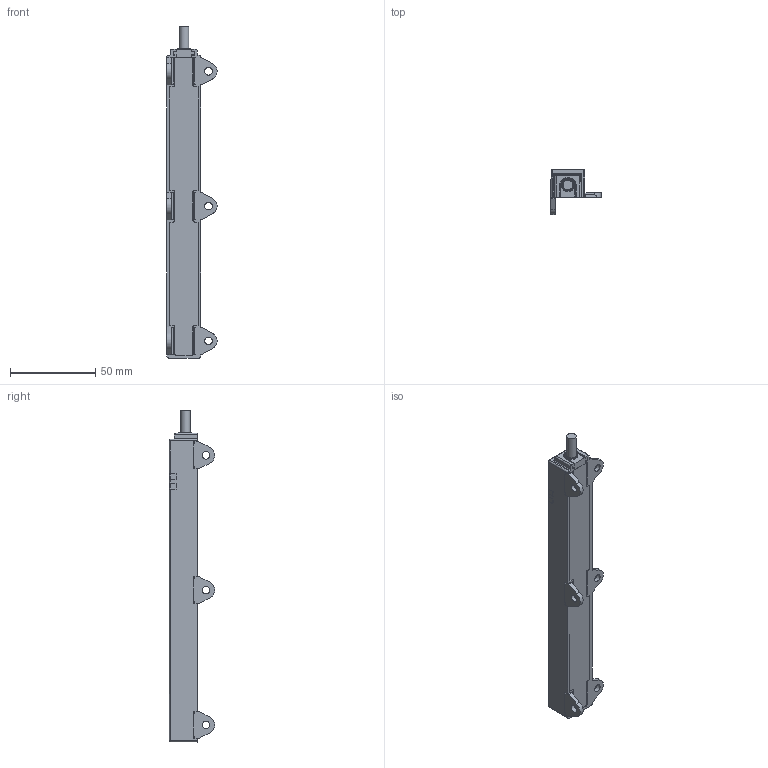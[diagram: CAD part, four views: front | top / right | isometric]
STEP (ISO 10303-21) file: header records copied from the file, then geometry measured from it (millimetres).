
FILE_DESCRIPTION((''),'2;1');
FILE_NAME('C:\TurckZip\LI150P1-Q17LM1X2.stp','2011-09-29T10:20:03',('IKOROL'),(''),'Autodesk Inventor 2010','Autodesk Inventor 2010','');
FILE_SCHEMA(('CONFIG_CONTROL_DESIGN'));
Length unit declared in the file: millimetre
Products named in the file (1): LI150P1-Q17LM1X2
Bounding box: 29.48 x 26.58 x 194.5 mm (x, y, z)
Volume: 57829.7 mm3; surface area: 22175.1 mm2
Topology: 1 solids, 1 shells, 757 faces, 2194 edges, 1422 vertices
Faces by surface type: plane 509, cylinder 220, cone 21, torus 7
Full cylindrical faces by diameter (mm): 4.5 x6, 5.6 x1, 7.5 x1
Entity records: 25162 total; most frequent: CARTESIAN_POINT 4648, ORIENTED_EDGE 4384, DIRECTION 4190, EDGE_CURVE 2192, VECTOR 1646, LINE 1646, VERTEX_POINT 1420, AXIS2_PLACEMENT_3D 1272
